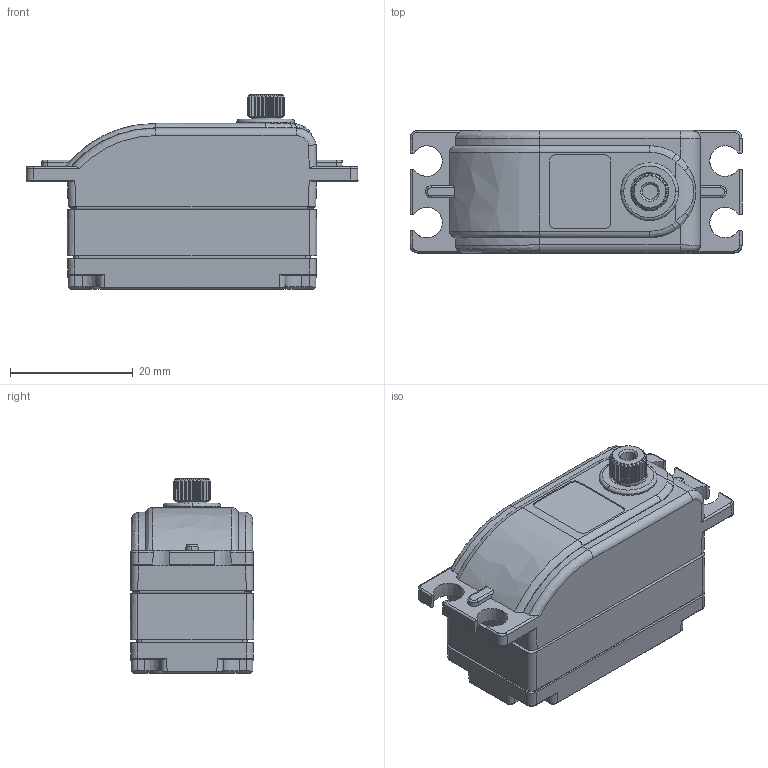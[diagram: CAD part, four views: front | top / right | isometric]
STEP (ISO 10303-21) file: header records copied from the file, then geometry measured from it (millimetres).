
FILE_DESCRIPTION (( 'STEP AP214' ), '1' );
FILE_NAME ('BLS651_DM_2020.STEP', '2023-11-01T06:50:39', ( '' ), ( '' ), 'SwSTEP 2.0', 'SolidWorks 2016', '' );
FILE_SCHEMA (( 'AUTOMOTIVE_DESIGN' ));
Length unit declared in the file: millimetre
Products named in the file (1): BLS651_DM_2020
Bounding box: 54 x 20.13 x 31.7 mm (x, y, z)
Volume: 8538.2 mm3; surface area: 14739.3 mm2
Topology: 5 solids, 5 shells, 922 faces, 2549 edges, 1667 vertices
Faces by surface type: plane 317, cylinder 245, cone 209, bspline 151
Entity records: 43759 total; most frequent: CARTESIAN_POINT 22090, ORIENTED_EDGE 5090, DIRECTION 3681, EDGE_CURVE 2545, VERTEX_POINT 1667, AXIS2_PLACEMENT_3D 1315, VECTOR 1051, LINE 1051
